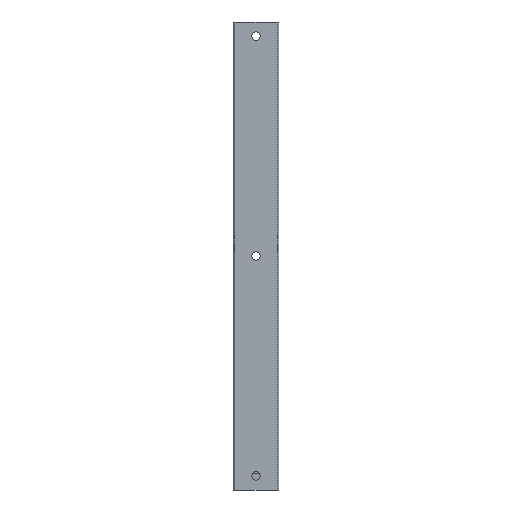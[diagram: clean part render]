
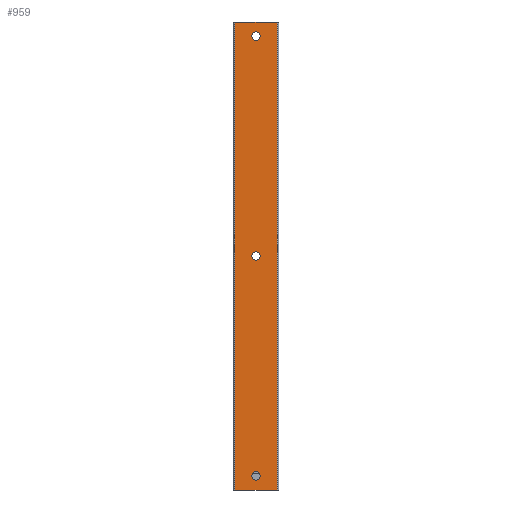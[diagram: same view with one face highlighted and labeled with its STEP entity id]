
A CAD part, front view. The second image highlights one B-rep face of the part: STEP entity #959.
In plain terms, the highlighted planar face has unit normal (0, -1, 0).
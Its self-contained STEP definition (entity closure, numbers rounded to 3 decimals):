
#27=DIRECTION('',(1.,0.,0.));
#28=VECTOR('',#27,120.);
#29=CARTESIAN_POINT('',(-60.,0.,0.));
#30=LINE('',#29,#28);
#97=DIRECTION('',(1.,0.,0.));
#98=VECTOR('',#97,120.);
#99=CARTESIAN_POINT('',(-60.,0.,1330.));
#100=LINE('',#99,#98);
#166=CARTESIAN_POINT('',(0.,0.,665.));
#167=DIRECTION('',(0.,-1.,0.));
#168=DIRECTION('',(0.,0.,-1.));
#169=AXIS2_PLACEMENT_3D('',#166,#167,#168);
#171=CARTESIAN_POINT('',(0.,0.,665.));
#172=DIRECTION('',(0.,-1.,0.));
#173=DIRECTION('',(0.,0.,1.));
#174=AXIS2_PLACEMENT_3D('',#171,#172,#173);
#176=CARTESIAN_POINT('',(0.,0.,1290.));
#177=DIRECTION('',(0.,-1.,0.));
#178=DIRECTION('',(0.,0.,-1.));
#179=AXIS2_PLACEMENT_3D('',#176,#177,#178);
#181=CARTESIAN_POINT('',(0.,0.,1290.));
#182=DIRECTION('',(0.,-1.,0.));
#183=DIRECTION('',(0.,0.,1.));
#184=AXIS2_PLACEMENT_3D('',#181,#182,#183);
#186=CARTESIAN_POINT('',(0.,0.,40.));
#187=DIRECTION('',(0.,-1.,0.));
#188=DIRECTION('',(0.,0.,-1.));
#189=AXIS2_PLACEMENT_3D('',#186,#187,#188);
#191=CARTESIAN_POINT('',(0.,0.,40.));
#192=DIRECTION('',(0.,-1.,0.));
#193=DIRECTION('',(0.,0.,1.));
#194=AXIS2_PLACEMENT_3D('',#191,#192,#193);
#196=DIRECTION('',(0.,0.,-1.));
#197=VECTOR('',#196,1330.);
#198=CARTESIAN_POINT('',(-60.,0.,1330.));
#199=LINE('',#198,#197);
#200=DIRECTION('',(0.,0.,-1.));
#201=VECTOR('',#200,1330.);
#202=CARTESIAN_POINT('',(60.,0.,1330.));
#203=LINE('',#202,#201);
#538=CARTESIAN_POINT('',(0.,0.,653.));
#539=CARTESIAN_POINT('',(0.,0.,677.));
#540=VERTEX_POINT('',#538);
#541=VERTEX_POINT('',#539);
#542=CARTESIAN_POINT('',(0.,0.,1278.));
#543=CARTESIAN_POINT('',(0.,0.,1302.));
#544=VERTEX_POINT('',#542);
#545=VERTEX_POINT('',#543);
#546=CARTESIAN_POINT('',(0.,0.,28.));
#547=CARTESIAN_POINT('',(0.,0.,52.));
#548=VERTEX_POINT('',#546);
#549=VERTEX_POINT('',#547);
#550=CARTESIAN_POINT('',(-60.,0.,0.));
#552=VERTEX_POINT('',#550);
#556=CARTESIAN_POINT('',(-60.,0.,1330.));
#557=VERTEX_POINT('',#556);
#559=CARTESIAN_POINT('',(60.,0.,0.));
#561=VERTEX_POINT('',#559);
#562=CARTESIAN_POINT('',(60.,0.,1330.));
#563=VERTEX_POINT('',#562);
#930=CARTESIAN_POINT('',(-65.,0.,0.));
#931=DIRECTION('',(0.,-1.,0.));
#932=DIRECTION('',(1.,0.,0.));
#933=AXIS2_PLACEMENT_3D('',#930,#931,#932);
#934=PLANE('',#933);
#936=ORIENTED_EDGE('',*,*,#935,.F.);
#937=ORIENTED_EDGE('',*,*,#849,.T.);
#939=ORIENTED_EDGE('',*,*,#938,.T.);
#940=ORIENTED_EDGE('',*,*,#681,.F.);
#941=EDGE_LOOP('',(#936,#937,#939,#940));
#942=FACE_OUTER_BOUND('',#941,.F.);
#944=ORIENTED_EDGE('',*,*,#943,.T.);
#946=ORIENTED_EDGE('',*,*,#945,.T.);
#947=EDGE_LOOP('',(#944,#946));
#948=FACE_BOUND('',#947,.F.);
#950=ORIENTED_EDGE('',*,*,#949,.T.);
#952=ORIENTED_EDGE('',*,*,#951,.T.);
#953=EDGE_LOOP('',(#950,#952));
#954=FACE_BOUND('',#953,.F.);
#955=ORIENTED_EDGE('',*,*,#910,.T.);
#956=ORIENTED_EDGE('',*,*,#924,.T.);
#957=EDGE_LOOP('',(#955,#956));
#958=FACE_BOUND('',#957,.F.);
#959=ADVANCED_FACE('',(#942,#948,#954,#958),#934,.T.);
#170=CIRCLE('',#169,12.);
#175=CIRCLE('',#174,12.);
#180=CIRCLE('',#179,12.);
#185=CIRCLE('',#184,12.);
#190=CIRCLE('',#189,12.);
#195=CIRCLE('',#194,12.);
#681=EDGE_CURVE('',#552,#561,#30,.T.);
#849=EDGE_CURVE('',#557,#563,#100,.T.);
#910=EDGE_CURVE('',#540,#541,#170,.T.);
#924=EDGE_CURVE('',#541,#540,#175,.T.);
#935=EDGE_CURVE('',#557,#552,#199,.T.);
#938=EDGE_CURVE('',#563,#561,#203,.T.);
#943=EDGE_CURVE('',#544,#545,#180,.T.);
#945=EDGE_CURVE('',#545,#544,#185,.T.);
#949=EDGE_CURVE('',#548,#549,#190,.T.);
#951=EDGE_CURVE('',#549,#548,#195,.T.);
